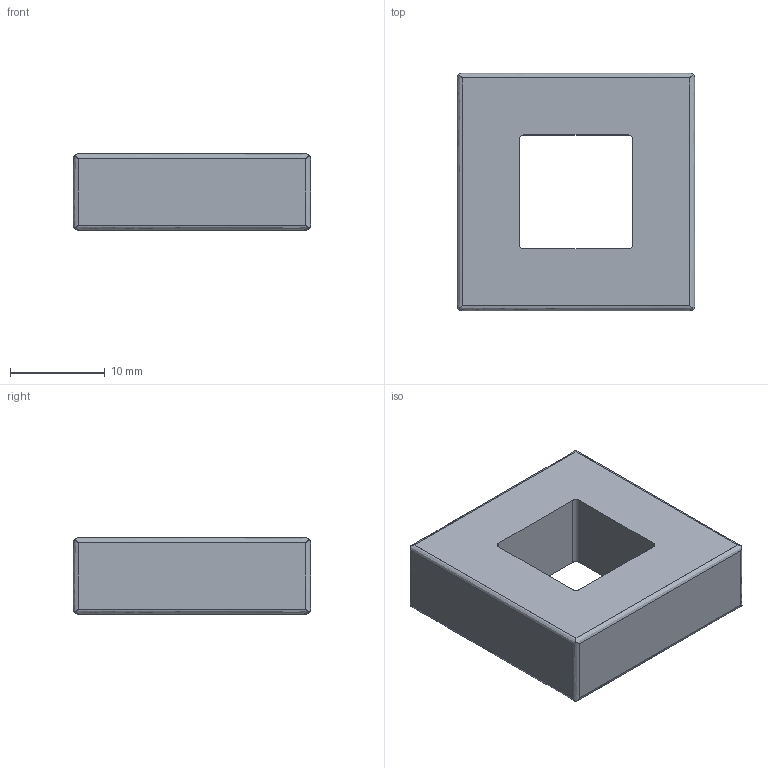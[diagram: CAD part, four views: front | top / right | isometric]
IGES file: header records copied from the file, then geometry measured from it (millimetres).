
Start section: Data from Parasolid IGES Translator 15.0.47, Copyright(c) 2006 Siemens P LM Software. All Rights Reserved.
Global section: file name: 9113209.igs; native system:  By UGS Corp.; preprocessor: XPlus GENERIC/IGES 3.0; author: Noname; organization: Noname; date: 20140122.174616; units: millimetre
Bounding box: 25.01 x 25.01 x 8.01 mm (x, y, z)
Surface area: 2165.3 mm2 (no closed solid volume)
Topology: 0 solids, 0 shells, 28 faces, 150 edges, 150 vertices
Faces by surface type: revolution 17, extrusion 11
